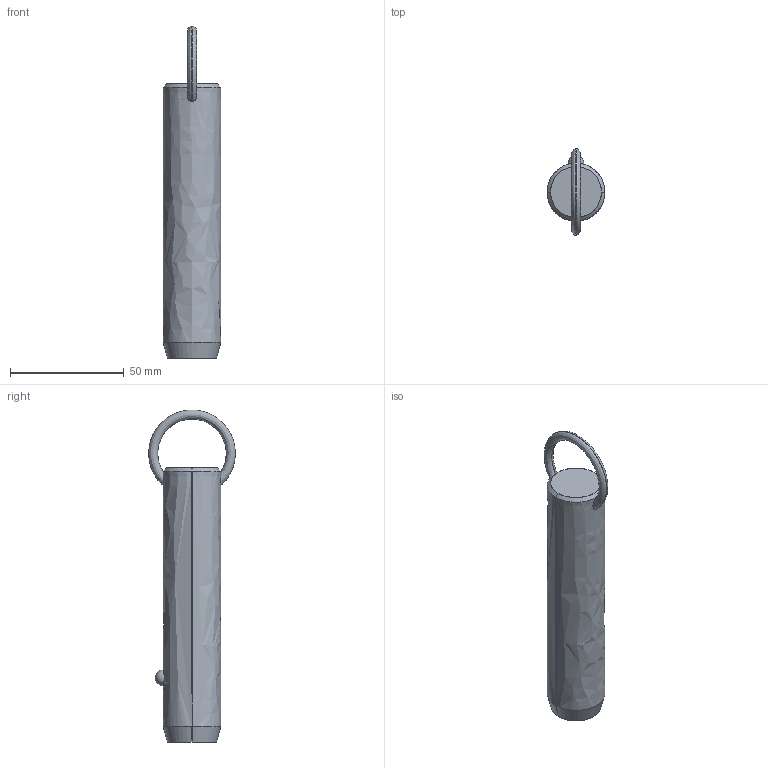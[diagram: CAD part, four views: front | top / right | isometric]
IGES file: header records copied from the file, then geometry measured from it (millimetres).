
Start section: SolidWorks IGES file using analytic representation for surfaces
Global section: file name: C:\Users\liam_\OneDrive\Documents\WORK\Work for WixRoyd\Job Files\J-00019 - Matt Davis CAD Checking\04. CAD Drawings\automotion20190605\P1250.2_v2\P1250.2_v2_20190729_IGES\P1250.100-300.igs; native system: SolidWorks 2017; preprocessor: SolidWorks 2017; author: liam_; date: 190730.173657; units: millimetre
Bounding box: 25.4 x 38.09 x 145.99 mm (x, y, z)
Surface area: 11396.8 mm2 (no closed solid volume)
Topology: 0 solids, 0 shells, 12 faces, 298 edges, 296 vertices
Faces by surface type: revolution 8, bspline 4
